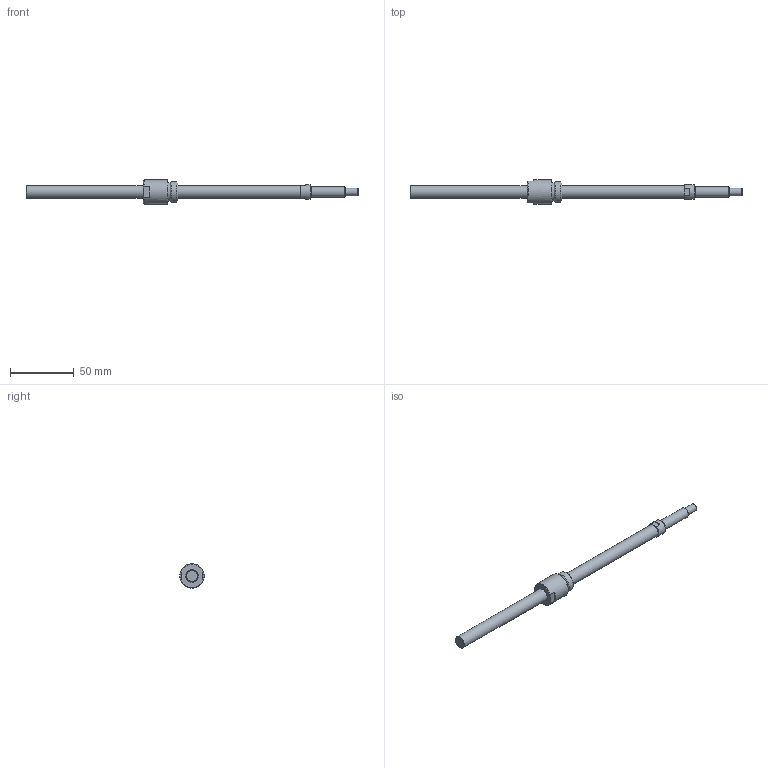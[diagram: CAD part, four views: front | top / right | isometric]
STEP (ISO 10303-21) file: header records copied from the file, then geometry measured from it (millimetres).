
FILE_DESCRIPTION(/* description */ ('STEP AP214'),/* implementation_level */ '2;1');
FILE_NAME(/* name */ 'NSG1002-211R260C5A0X(92)',/* time_stamp */ '2026-08-20T15:48:57+02:00',/* author */ ('License CC BY-ND 4.0'),/* organization */ ('CADENAS'),/* preprocessor_version */ 'ST-DEVELOPER v20',/* originating_system */ 'PARTsolutions',/* authorisation */ ' ');
FILE_SCHEMA (('AUTOMOTIVE_DESIGN {1 0 10303 214 3 1 1}'));
Length unit declared in the file: millimetre
Products named in the file (3): NSG1002-211R260C5A0X(92); NSG1002-211R260C3A_shaft; NSG1002_nut
Assembly tree (2 placements, depth 2):
  NSG1002-211R260C5A0X(92)
    NSG1002-211R260C3A_shaft
    NSG1002_nut
Bounding box: 260 x 19 x 19 mm (x, y, z)
Volume: 24024.8 mm3; surface area: 10866.2 mm2
Topology: 2 solids, 2 shells, 35 faces, 72 edges, 44 vertices
Faces by surface type: plane 17, cone 9, cylinder 8, torus 1
Full cylindrical faces by diameter (mm): 6 x1, 8 x1, 10 x2, 11.5 x1, 14.4 x1, 16 x1, 19 x1
Entity records: 907 total; most frequent: DIRECTION 158, CARTESIAN_POINT 146, ORIENTED_EDGE 108, AXIS2_PLACEMENT_3D 70, EDGE_LOOP 56, FACE_BOUND 56, EDGE_CURVE 54, VERTEX_POINT 42
